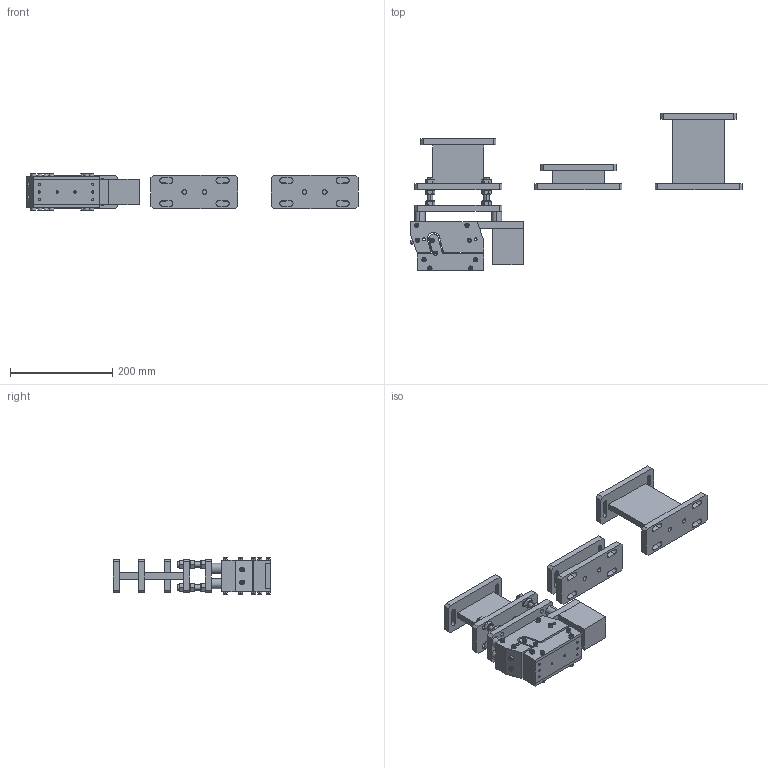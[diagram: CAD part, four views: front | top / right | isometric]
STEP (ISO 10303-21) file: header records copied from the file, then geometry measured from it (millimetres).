
FILE_DESCRIPTION (( 'STEP AP203' ), '1' );
FILE_NAME ('ZX140 盓殤恁饜23.05.07 載陔.STEP', '2023-05-07T01:26:23', ( '' ), ( '' ), 'SwSTEP 2.0', 'SolidWorks 2022', '' );
FILE_SCHEMA (( 'CONFIG_CONTROL_DESIGN' ));
Length unit declared in the file: millimetre
Products named in the file (1): ZX140 盓殤恁饜23.05.07 載陔
Bounding box: 649.38 x 308 x 72 mm (x, y, z)
Volume: 2210627.7 mm3; surface area: 451309.4 mm2
Topology: 63 solids, 63 shells, 1295 faces, 3110 edges, 1940 vertices
Faces by surface type: plane 685, cylinder 354, cone 208, bspline 48
Entity records: 39117 total; most frequent: CARTESIAN_POINT 8874, DIRECTION 6354, ORIENTED_EDGE 6092, EDGE_CURVE 3046, AXIS2_PLACEMENT_3D 2332, VERTEX_POINT 1940, LINE 1690, VECTOR 1690
